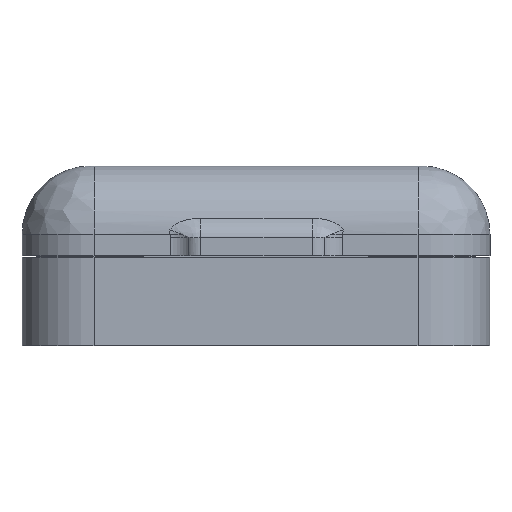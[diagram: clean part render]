
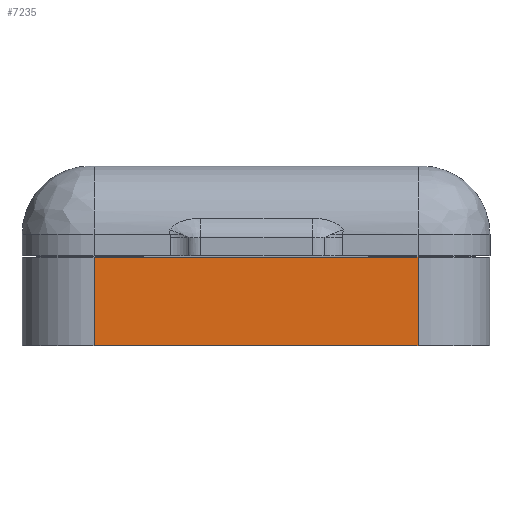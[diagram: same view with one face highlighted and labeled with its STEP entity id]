
A CAD part, front view. The second image highlights one B-rep face of the part: STEP entity #7235.
In plain terms, the highlighted planar face has unit normal (0, -1, 0).
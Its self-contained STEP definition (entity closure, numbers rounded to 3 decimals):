
#187=PLANE('',#7749);
#726=FACE_OUTER_BOUND('',#1132,.T.);
#1132=EDGE_LOOP('',(#5712,#5713,#5714,#5715));
#1588=LINE('',#10477,#2298);
#1707=LINE('',#11088,#2417);
#1720=LINE('',#11149,#2430);
#1721=LINE('',#11151,#2431);
#2298=VECTOR('',#8471,10.);
#2417=VECTOR('',#8762,10.);
#2430=VECTOR('',#8851,10.);
#2431=VECTOR('',#8854,10.);
#3181=VERTEX_POINT('',#10474);
#3182=VERTEX_POINT('',#10476);
#3269=VERTEX_POINT('',#11085);
#3270=VERTEX_POINT('',#11087);
#3973=EDGE_CURVE('',#3181,#3182,#1588,.T.);
#4130=EDGE_CURVE('',#3269,#3270,#1707,.T.);
#4157=EDGE_CURVE('',#3269,#3182,#1720,.T.);
#4158=EDGE_CURVE('',#3270,#3181,#1721,.T.);
#5712=ORIENTED_EDGE('',*,*,#4130,.F.);
#5713=ORIENTED_EDGE('',*,*,#4157,.T.);
#5714=ORIENTED_EDGE('',*,*,#3973,.F.);
#5715=ORIENTED_EDGE('',*,*,#4158,.F.);
#7235=ADVANCED_FACE('',(#726),#187,.T.);
#7749=AXIS2_PLACEMENT_3D('',#11150,#8852,#8853);
#8471=DIRECTION('',(1.,0.,0.));
#8762=DIRECTION('',(-1.,0.,0.));
#8851=DIRECTION('',(0.,0.,1.));
#8852=DIRECTION('center_axis',(0.,-1.,0.));
#8853=DIRECTION('ref_axis',(1.,0.,0.));
#8854=DIRECTION('',(0.,0.,1.));
#10474=CARTESIAN_POINT('',(-22.563,-32.451,12.3));
#10476=CARTESIAN_POINT('',(22.437,-32.451,12.3));
#10477=CARTESIAN_POINT('',(22.437,-32.451,12.3));
#11085=CARTESIAN_POINT('',(22.437,-32.451,0.));
#11087=CARTESIAN_POINT('',(-22.563,-32.451,0.));
#11088=CARTESIAN_POINT('',(22.437,-32.451,0.));
#11149=CARTESIAN_POINT('',(22.437,-32.451,0.));
#11150=CARTESIAN_POINT('Origin',(-22.563,-32.451,0.));
#11151=CARTESIAN_POINT('',(-22.563,-32.451,0.));
